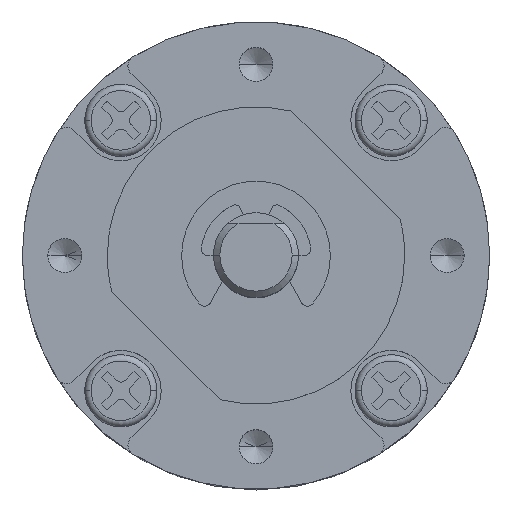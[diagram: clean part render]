
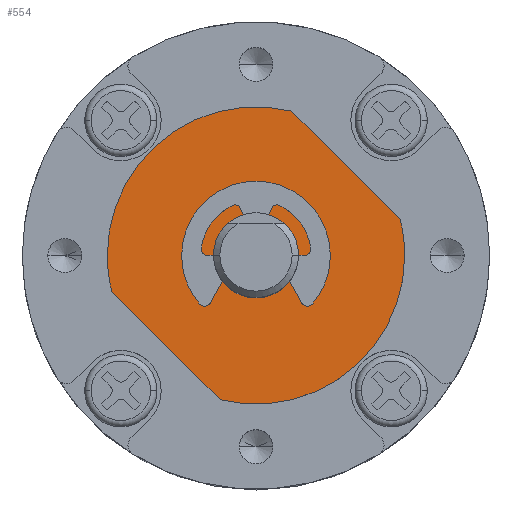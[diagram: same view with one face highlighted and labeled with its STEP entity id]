
A CAD part, top view. The second image highlights one B-rep face of the part: STEP entity #554.
In plain terms, the highlighted planar face has unit normal (0, 0, 1).
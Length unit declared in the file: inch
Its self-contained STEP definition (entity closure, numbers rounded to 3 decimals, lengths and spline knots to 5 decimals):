
#554=ADVANCED_FACE('NONE',(#1376,#1377),#1378,.F.);
#1376=FACE_OUTER_BOUND('',#2526,.T.);
#1377=FACE_BOUND('',#2527,.T.);
#1378=PLANE('',#2528);
#2526=EDGE_LOOP('',(#4084,#4085,#4086,#4087,#4088,#4089));
#2527=EDGE_LOOP('',(#4090,#4091));
#2528=AXIS2_PLACEMENT_3D('',#4092,#4093,#4094);
#4084=ORIENTED_EDGE('',*,*,#7127,.F.);
#4085=ORIENTED_EDGE('',*,*,#7128,.T.);
#4086=ORIENTED_EDGE('',*,*,#7129,.F.);
#4087=ORIENTED_EDGE('',*,*,#7130,.F.);
#4088=ORIENTED_EDGE('',*,*,#7131,.T.);
#4089=ORIENTED_EDGE('',*,*,#7132,.F.);
#4090=ORIENTED_EDGE('',*,*,#7133,.T.);
#4091=ORIENTED_EDGE('',*,*,#7134,.T.);
#4092=CARTESIAN_POINT('',(-0.16451,-0.10616,0.08661));
#4093=DIRECTION('',(0.0,0.0,-1.0));
#4094=DIRECTION('',(0.0,-1.0,0.0));
#7127=EDGE_CURVE('NONE',#8712,#8713,#8714,.T.);
#7128=EDGE_CURVE('NONE',#8712,#8715,#8716,.T.);
#7129=EDGE_CURVE('NONE',#8717,#8715,#8718,.T.);
#7130=EDGE_CURVE('NONE',#8719,#8717,#8720,.T.);
#7131=EDGE_CURVE('NONE',#8719,#8721,#8722,.T.);
#7132=EDGE_CURVE('NONE',#8713,#8721,#8723,.T.);
#7133=EDGE_CURVE('NONE',#8724,#8725,#8726,.T.);
#7134=EDGE_CURVE('NONE',#8725,#8724,#8727,.T.);
#8712=VERTEX_POINT('NONE',#10826);
#8713=VERTEX_POINT('',#10827);
#8714=CIRCLE('',#10828,0.27559);
#8715=VERTEX_POINT('NONE',#10829);
#8716=LINE('',#10830,#10831);
#8717=VERTEX_POINT('NONE',#10832);
#8718=CIRCLE('',#10833,0.27559);
#8719=VERTEX_POINT('NONE',#10834);
#8720=CIRCLE('',#10835,0.27559);
#8721=VERTEX_POINT('NONE',#10836);
#8722=LINE('',#10837,#10838);
#8723=CIRCLE('',#10839,0.27559);
#8724=VERTEX_POINT('NONE',#10840);
#8725=VERTEX_POINT('NONE',#10841);
#8726=CIRCLE('',#10842,0.07874);
#8727=CIRCLE('',#10843,0.07874);
#10826=CARTESIAN_POINT('',(0.10289,0.03924,0.08661));
#10827=CARTESIAN_POINT('',(0.11108,-0.02742,0.08661));
#10828=AXIS2_PLACEMENT_3D('',#12985,#12986,#12987);
#10829=CARTESIAN_POINT('',(-0.09785,0.23999,0.08661));
#10830=CARTESIAN_POINT('',(0.04189,0.10024,0.08661));
#10831=VECTOR('',#12988,39.37008);
#10832=CARTESIAN_POINT('',(-0.4401,-0.02742,0.08661));
#10833=AXIS2_PLACEMENT_3D('',#12989,#12990,#12991);
#10834=CARTESIAN_POINT('',(-0.43192,-0.09408,0.08661));
#10835=AXIS2_PLACEMENT_3D('',#12992,#12993,#12994);
#10836=CARTESIAN_POINT('',(-0.23117,-0.29483,0.08661));
#10837=CARTESIAN_POINT('',(-0.29218,-0.23382,0.08661));
#10838=VECTOR('',#12995,39.37008);
#10839=AXIS2_PLACEMENT_3D('',#12996,#12997,#12998);
#10840=CARTESIAN_POINT('',(-0.24325,-0.02742,0.08661));
#10841=CARTESIAN_POINT('',(-0.08577,-0.02742,0.08661));
#10842=AXIS2_PLACEMENT_3D('',#12999,#13000,#13001);
#10843=AXIS2_PLACEMENT_3D('',#13002,#13003,#13004);
#12985=CARTESIAN_POINT('',(-0.16451,-0.02742,0.08661));
#12986=DIRECTION('',(0.0,0.0,-1.0));
#12987=DIRECTION('',(-1.0,0.0,0.0));
#12988=DIRECTION('',(-0.707,0.707,0.0));
#12989=CARTESIAN_POINT('',(-0.16451,-0.02742,0.08661));
#12990=DIRECTION('',(0.0,0.0,-1.0));
#12991=DIRECTION('',(-1.0,0.0,0.0));
#12992=CARTESIAN_POINT('',(-0.16451,-0.02742,0.08661));
#12993=DIRECTION('',(0.0,0.0,-1.0));
#12994=DIRECTION('',(-1.0,0.0,0.0));
#12995=DIRECTION('',(0.707,-0.707,0.0));
#12996=CARTESIAN_POINT('',(-0.16451,-0.02742,0.08661));
#12997=DIRECTION('',(0.0,0.0,-1.0));
#12998=DIRECTION('',(-1.0,0.0,0.0));
#12999=CARTESIAN_POINT('',(-0.16451,-0.02742,0.08661));
#13000=DIRECTION('',(0.0,0.0,-1.0));
#13001=DIRECTION('',(-1.0,0.0,0.0));
#13002=CARTESIAN_POINT('',(-0.16451,-0.02742,0.08661));
#13003=DIRECTION('',(0.0,0.0,-1.0));
#13004=DIRECTION('',(-1.0,0.0,0.0));
